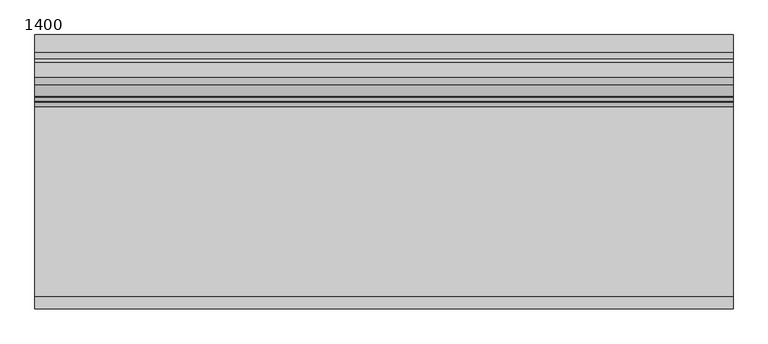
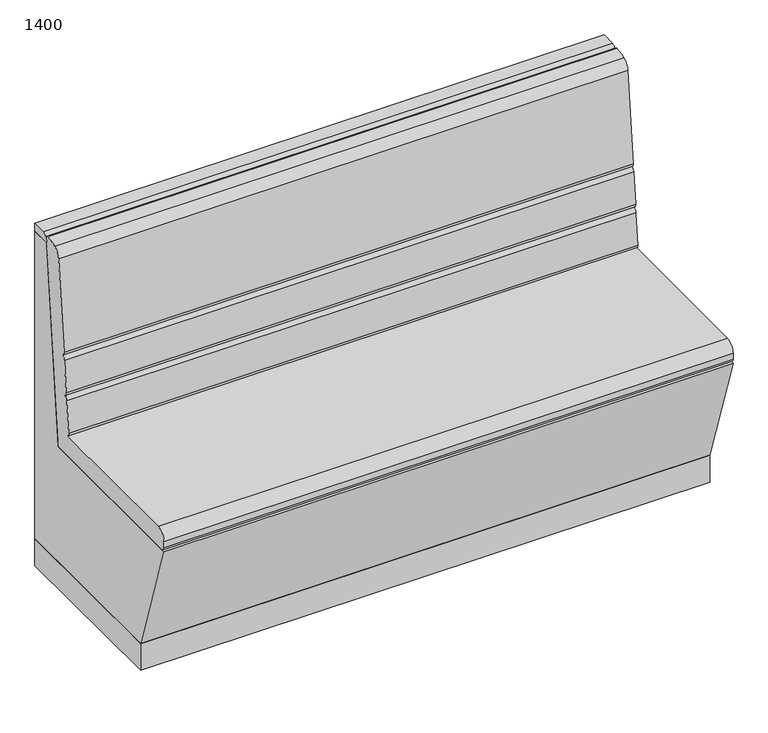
"""IFC4 building model written with IfcOpenShell, lengths in millimetres: furniture geometry, TN.RES.Bench04 : 1400."""

from ifc_helpers import new_model, si_unit, point, frame, frame_2d, origin, origin_with_axes, place, context, project, spatial, polyline, circle_curve, trimmed, segment, composite_curve, outline, extrude, source, transform, mapped, element, save


def furniture_1400_523aa014(model_context):
    return source(origin(), model_context, "Body", "SweptSolid", [
        extrude(outline(polyline([(1300.0, -50.0), (1300.0, -70.0), (1280.0, -70.0), (1280.0, -50.0), (1300.0, -50.0)])), origin_with_axes(), (0.0, 0.0, 1.0), 10.0),
        extrude(outline(polyline([(1300.0, -380.0), (1300.0, -400.0), (1280.0, -400.0), (1280.0, -380.0), (1300.0, -380.0)])), origin_with_axes(), (0.0, 0.0, 1.0), 10.0),
        extrude(outline(polyline([(120.0, -50.0), (120.0, -70.0), (100.0, -70.0), (100.0, -50.0), (120.0, -50.0)])), origin_with_axes(), (0.0, 0.0, 1.0), 10.0),
        extrude(outline(polyline([(120.0, -380.0), (120.0, -400.0), (100.0, -400.0), (100.0, -380.0), (120.0, -380.0)])), origin_with_axes(), (0.0, 0.0, 1.0), 10.0),
        extrude(outline(composite_curve([segment(polyline([(0.0, 900.0), (0.0, 880.0), (-47.2797784, 880.0), (-49.5309963, 882.2512179), (-47.6821648, 891.1256089)]), True, "CONTINUOUS"), segment(trimmed(circle_curve(frame_2d((-34.2247096, 885.3937005)), 14.6272989), [point((-47.6821648, 891.1256089))], [point((-35.0082209, 900.0))], False, "CARTESIAN"), True, "CONTINUOUS"), segment(polyline([(-35.0082209, 900.0), (0.0, 900.0)]), True, "CONTINUOUS")], self_intersect=False)), frame((0.0, 0.0, 0.0), z_axis=(1.0, 0.0, 0.0), x_axis=(0.0, 1.0, 0.0)), (0.0, 0.0, 1.0), 1400.0),
        extrude(outline(polyline([(1360.0, 0.0), (1360.0, -20.0), (40.0, -20.0), (40.0, 0.0), (1360.0, 0.0)])), frame((0.0, 0.0, 10.0), z_axis=(0.0, 0.0, 1.0), x_axis=(1.0, 0.0, 0.0)), (0.0, 0.0, 1.0), 70.0),
        extrude(outline(polyline([(1400.0, -450.0), (0.0, -450.0), (0.0, 0.0), (40.0, 0.0), (40.0, -20.0), (1360.0, -20.0), (1360.0, 0.0), (1400.0, 0.0), (1400.0, -450.0)])), frame((0.0, 0.0, 10.0), z_axis=(0.0, 0.0, 1.0), x_axis=(1.0, 0.0, 0.0)), (0.0, 0.0, 1.0), 70.0),
        extrude(outline(composite_curve([segment(trimmed(circle_curve(frame_2d((-540.0, 390.0)), 10.0), [point((-540.0, 380.0))], [point((-550.0, 390.0))], False, "CARTESIAN"), True, "CONTINUOUS"), segment(polyline([(-550.0, 390.0), (-550.0, 405.0)]), True, "CONTINUOUS"), segment(trimmed(circle_curve(frame_2d((-525.0, 405.0)), 25.0), [point((-550.0, 405.0))], [point((-525.0, 430.0))], False, "CARTESIAN"), True, "CONTINUOUS"), segment(polyline([(-525.0, 430.0), (-134.1995025, 430.0)]), True, "CONTINUOUS"), segment(trimmed(circle_curve(frame_2d((-134.1995025, 440.0)), 10.0), [point((-134.1995025, 430.0))], [point((-144.1498744, 440.9950372))], False, "CARTESIAN"), True, "CONTINUOUS"), segment(polyline([(-144.1498744, 440.9950372), (-136.1797005, 520.696776)]), True, "CONTINUOUS"), segment(trimmed(circle_curve(frame_2d((-126.2293286, 519.7017388)), 10.0), [point((-136.1797005, 520.696776))], [point((-126.2293286, 529.7017388))], False, "CARTESIAN"), True, "CONTINUOUS"), segment(trimmed(circle_curve(frame_2d((-124.2491306, 539.503719)), 10.0), [point((-126.2293286, 529.7017388))], [point((-134.1995025, 540.4987562))], False, "CARTESIAN"), True, "CONTINUOUS"), segment(polyline([(-134.1995025, 540.4987562), (-126.2293286, 620.200495)]), True, "CONTINUOUS"), segment(trimmed(circle_curve(frame_2d((-116.2789567, 619.2054578)), 10.0), [point((-126.2293286, 620.200495))], [point((-116.2789567, 629.2054578))], False, "CARTESIAN"), True, "CONTINUOUS"), segment(trimmed(circle_curve(frame_2d((-114.2987587, 639.007438)), 10.0), [point((-116.2789567, 629.2054578))], [point((-124.2491306, 640.0024752))], False, "CARTESIAN"), True, "CONTINUOUS"), segment(polyline([(-124.2491306, 640.0024752), (-101.3426442, 869.0673388)]), True, "CONTINUOUS"), segment(trimmed(circle_curve(frame_2d((-73.3389833, 866.2669727)), 28.143331), [point((-101.3426442, 869.0673388))], [point((-85.1383801, 891.8173409))], False, "CARTESIAN"), True, "CONTINUOUS"), segment(trimmed(circle_curve(frame_2d((-55.8907781, 828.4846969)), 69.759917), [point((-85.1383801, 891.8173409))], [point((-55.171273, 898.2409032))], False, "CARTESIAN"), True, "CONTINUOUS"), segment(trimmed(circle_curve(frame_2d((-55.2477197, 890.8293765)), 7.411921), [point((-55.171273, 898.2409032))], [point((-48.5910893, 894.0891073))], False, "CARTESIAN"), True, "CONTINUOUS"), segment(polyline([(-48.5910893, 894.0891073), (-100.0, 380.0), (-540.0, 380.0)]), True, "CONTINUOUS")], self_intersect=False)), frame((0.0, 0.0, 0.0), z_axis=(1.0, 0.0, 0.0), x_axis=(0.0, 1.0, 0.0)), (0.0, 0.0, 1.0), 1400.0),
        extrude(outline(polyline([(-450.0, 80.0), (-550.0, 380.0), (-100.0, 380.0), (-50.0, 880.0), (0.0, 880.0), (0.0, 80.0), (-450.0, 80.0)])), frame((0.0, 0.0, 0.0), z_axis=(1.0, 0.0, 0.0), x_axis=(0.0, 1.0, 0.0)), (0.0, 0.0, 1.0), 1400.0),
    ])


if __name__ == "__main__":
    model = new_model("IFC4")
    model_context = context("Model", 3, world=origin())
    ifc_project = project(units=[si_unit("LENGTHUNIT", "METRE", prefix="MILLI")], contexts=[model_context])
    site = spatial("IfcSite", under=ifc_project)
    building = spatial("IfcBuilding", under=site)
    placement = place(None, origin())
    furniture_1400_shape = furniture_1400_523aa014(model_context)
    element("IfcFurniture", 1, ObjectType="TN.RES.Bench04 : 1400", at=placement, inside=building, context=model_context, shape_type="MappedRepresentation", body=[
        mapped(furniture_1400_shape, transform((0.0, 0.0, 0.0), x_axis=(1.0, 0.0, 0.0), y_axis=(0.0, 1.0, 0.0), z_axis=(0.0, 0.0, 1.0))),
    ])
    save(model, "model.ifc")
